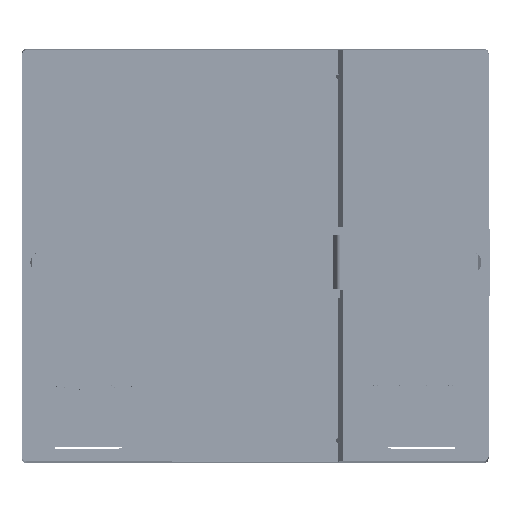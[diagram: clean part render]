
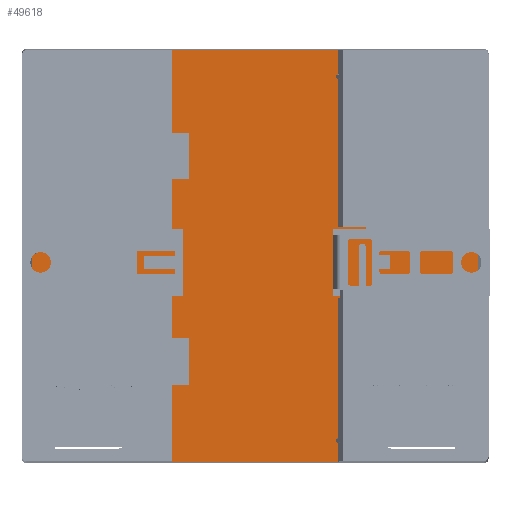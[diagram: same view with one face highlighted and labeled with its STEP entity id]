
A CAD part, top view. The second image highlights one B-rep face of the part: STEP entity #49618.
In plain terms, the highlighted planar face has unit normal (0, 0, 1).
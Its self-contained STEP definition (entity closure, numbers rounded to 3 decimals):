
#29718=CIRCLE('',#429339,0.5);
#29719=CIRCLE('',#429340,0.5);
#49618=ADVANCED_FACE('',(#84380),#63283,.F.);
#63283=PLANE('',#429341);
#84380=FACE_OUTER_BOUND('',#107408,.T.);
#107408=EDGE_LOOP('',(#204219,#204220,#204221,#204222,#204223,#204224,#204225,
#204226,#204227,#204228,#204229,#204230,#204231,#204232,#204233,#204234));
#204219=ORIENTED_EDGE('',*,*,#308278,.T.);
#204220=ORIENTED_EDGE('',*,*,#308268,.F.);
#204221=ORIENTED_EDGE('',*,*,#308266,.F.);
#204222=ORIENTED_EDGE('',*,*,#308280,.T.);
#204223=ORIENTED_EDGE('',*,*,#308262,.F.);
#204224=ORIENTED_EDGE('',*,*,#308260,.F.);
#204225=ORIENTED_EDGE('',*,*,#308281,.T.);
#204226=ORIENTED_EDGE('',*,*,#308282,.F.);
#204227=ORIENTED_EDGE('',*,*,#308283,.T.);
#204228=ORIENTED_EDGE('',*,*,#308284,.T.);
#204229=ORIENTED_EDGE('',*,*,#308285,.T.);
#204230=ORIENTED_EDGE('',*,*,#308112,.T.);
#204231=ORIENTED_EDGE('',*,*,#308132,.T.);
#204232=ORIENTED_EDGE('',*,*,#308286,.T.);
#204233=ORIENTED_EDGE('',*,*,#308128,.T.);
#204234=ORIENTED_EDGE('',*,*,#308287,.T.);
#254782=VERTEX_POINT('',#658032);
#254783=VERTEX_POINT('',#658033);
#254795=VERTEX_POINT('',#658061);
#254796=VERTEX_POINT('',#658063);
#254799=VERTEX_POINT('',#658069);
#254873=VERTEX_POINT('',#658317);
#254874=VERTEX_POINT('',#658319);
#254875=VERTEX_POINT('',#658323);
#254878=VERTEX_POINT('',#658329);
#254879=VERTEX_POINT('',#658331);
#254880=VERTEX_POINT('',#658335);
#254885=VERTEX_POINT('',#658355);
#254886=VERTEX_POINT('',#658360);
#254887=VERTEX_POINT('',#658362);
#254888=VERTEX_POINT('',#658364);
#254889=VERTEX_POINT('',#658366);
#308112=EDGE_CURVE('',#254782,#254783,#349555,.T.);
#308128=EDGE_CURVE('',#254796,#254795,#349571,.T.);
#308132=EDGE_CURVE('',#254783,#254799,#349573,.T.);
#308260=EDGE_CURVE('',#254873,#254874,#349683,.T.);
#308262=EDGE_CURVE('',#254874,#254875,#349685,.T.);
#308266=EDGE_CURVE('',#254878,#254879,#349687,.T.);
#308268=EDGE_CURVE('',#254879,#254880,#349689,.T.);
#308278=EDGE_CURVE('',#254885,#254880,#349699,.T.);
#308280=EDGE_CURVE('',#254878,#254875,#29718,.T.);
#308281=EDGE_CURVE('',#254873,#254886,#349701,.T.);
#308282=EDGE_CURVE('',#254887,#254886,#349702,.T.);
#308283=EDGE_CURVE('',#254887,#254888,#349703,.T.);
#308284=EDGE_CURVE('',#254888,#254889,#349704,.T.);
#308285=EDGE_CURVE('',#254889,#254782,#349705,.T.);
#308286=EDGE_CURVE('',#254799,#254796,#29719,.T.);
#308287=EDGE_CURVE('',#254795,#254885,#349706,.T.);
#349555=LINE('',#658031,#390643);
#349571=LINE('',#658062,#390659);
#349573=LINE('',#658070,#390661);
#349683=LINE('',#658318,#390771);
#349685=LINE('',#658322,#390773);
#349687=LINE('',#658330,#390775);
#349689=LINE('',#658334,#390777);
#349699=LINE('',#658354,#390787);
#349701=LINE('',#658359,#390789);
#349702=LINE('',#658361,#390790);
#349703=LINE('',#658363,#390791);
#349704=LINE('',#658365,#390792);
#349705=LINE('',#658367,#390793);
#349706=LINE('',#658369,#390794);
#390643=VECTOR('',#525354,1.);
#390659=VECTOR('',#525372,1.);
#390661=VECTOR('',#525378,1.);
#390771=VECTOR('',#525616,1.);
#390773=VECTOR('',#525620,1.);
#390775=VECTOR('',#525626,1.);
#390777=VECTOR('',#525630,1.);
#390787=VECTOR('',#525650,1.);
#390789=VECTOR('',#525656,1.);
#390790=VECTOR('',#525657,1.);
#390791=VECTOR('',#525658,1.);
#390792=VECTOR('',#525659,1.);
#390793=VECTOR('',#525660,1.);
#390794=VECTOR('',#525663,1.);
#429339=AXIS2_PLACEMENT_3D('',#658358,#525654,#525655);
#429340=AXIS2_PLACEMENT_3D('',#658368,#525661,#525662);
#429341=AXIS2_PLACEMENT_3D('',#658370,#525664,#525665);
#525354=DIRECTION('',(1.,0.,0.));
#525372=DIRECTION('',(0.,1.,0.));
#525378=DIRECTION('',(0.,1.,0.));
#525616=DIRECTION('',(1.,0.,0.));
#525620=DIRECTION('',(0.,-1.,0.));
#525626=DIRECTION('',(0.,-1.,0.));
#525630=DIRECTION('',(1.,0.,0.));
#525650=DIRECTION('',(0.,1.,0.));
#525654=DIRECTION('',(0.,0.,-1.));
#525655=DIRECTION('',(0.,-1.,0.));
#525656=DIRECTION('',(0.,-1.,0.));
#525657=DIRECTION('',(1.,0.,0.));
#525658=DIRECTION('',(0.,-1.,0.));
#525659=DIRECTION('',(1.,0.,0.));
#525660=DIRECTION('',(0.,-1.,0.));
#525661=DIRECTION('',(0.,0.,-1.));
#525662=DIRECTION('',(0.,-1.,0.));
#525663=DIRECTION('',(1.,0.,0.));
#525664=DIRECTION('',(0.,0.,-1.));
#525665=DIRECTION('',(1.,0.,0.));
#658031=CARTESIAN_POINT('',(-17.8,-43.48,-5.));
#658032=CARTESIAN_POINT('',(-17.8,-43.48,-5.));
#658033=CARTESIAN_POINT('',(17.8,-43.48,-5.));
#658061=CARTESIAN_POINT('',(17.8,-8.35,-5.));
#658062=CARTESIAN_POINT('',(17.8,-38.5,-5.));
#658063=CARTESIAN_POINT('',(17.8,-38.5,-5.));
#658069=CARTESIAN_POINT('',(17.8,-39.5,-5.));
#658070=CARTESIAN_POINT('',(17.8,-43.48,-5.));
#658317=CARTESIAN_POINT('',(-17.8,44.775,-5.));
#658318=CARTESIAN_POINT('',(-17.8,44.775,-5.));
#658319=CARTESIAN_POINT('',(17.8,44.775,-5.));
#658322=CARTESIAN_POINT('',(17.8,44.775,-5.));
#658323=CARTESIAN_POINT('',(17.8,39.5,-5.));
#658329=CARTESIAN_POINT('',(17.8,38.5,-5.));
#658330=CARTESIAN_POINT('',(17.8,38.5,-5.));
#658331=CARTESIAN_POINT('',(17.8,6.75,-5.));
#658334=CARTESIAN_POINT('',(17.8,6.75,-5.));
#658335=CARTESIAN_POINT('',(47.8,6.75,-5.));
#658354=CARTESIAN_POINT('',(47.8,42.4,-5.));
#658355=CARTESIAN_POINT('',(47.8,-8.35,-5.));
#658358=CARTESIAN_POINT('',(17.8,39.,-5.));
#658359=CARTESIAN_POINT('',(-17.8,44.775,-5.));
#658360=CARTESIAN_POINT('',(-17.8,6.75,-5.));
#658361=CARTESIAN_POINT('',(-47.8,6.75,-5.));
#658362=CARTESIAN_POINT('',(-47.8,6.75,-5.));
#658363=CARTESIAN_POINT('',(-47.8,6.75,-5.));
#658364=CARTESIAN_POINT('',(-47.8,-8.35,-5.));
#658365=CARTESIAN_POINT('',(-47.8,-8.35,-5.));
#658366=CARTESIAN_POINT('',(-17.8,-8.35,-5.));
#658367=CARTESIAN_POINT('',(-17.8,-28.,-5.));
#658368=CARTESIAN_POINT('',(17.8,-39.,-5.));
#658369=CARTESIAN_POINT('',(17.8,-8.35,-5.));
#658370=CARTESIAN_POINT('',(0.,42.4,-5.));
